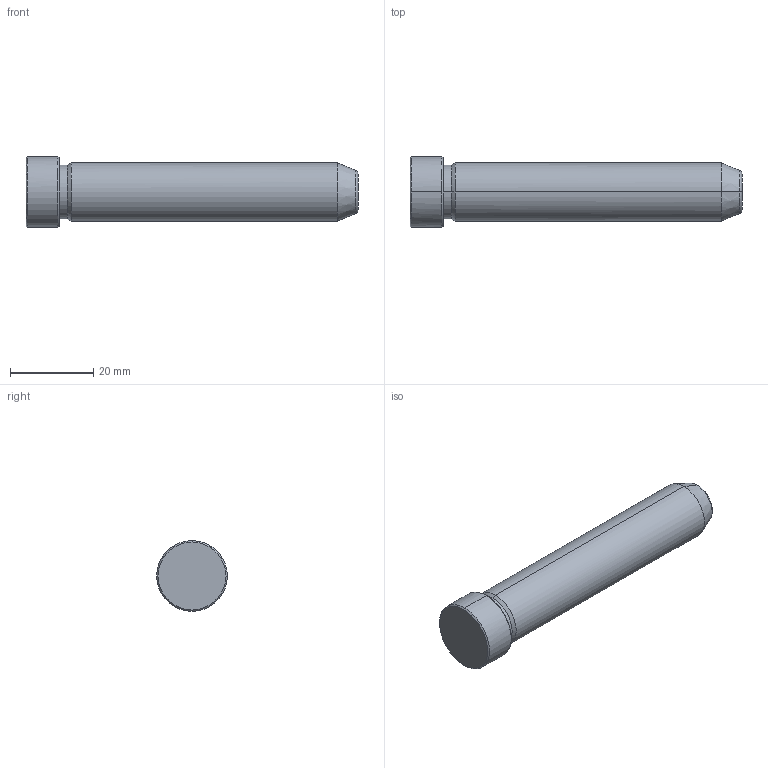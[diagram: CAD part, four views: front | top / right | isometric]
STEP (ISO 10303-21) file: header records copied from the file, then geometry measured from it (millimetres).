
FILE_DESCRIPTION(('CATIA V5 STEP Exchange'),'2;1');
FILE_NAME('C:\Users\Utente\Desktop\IO LAVORO\3D X SITO CF\X SITO\PLASTICA\549\549-14X80.stp','2021-12-11T09:27:36+00:00',('none'),('none'),'CATIA Version 5 Release 20 GA (IN-10)','CATIA V5 STEP AP203','none');
FILE_SCHEMA(('CONFIG_CONTROL_DESIGN'));
Length unit declared in the file: millimetre
Products named in the file (1): 549-14X80
Bounding box: 80 x 17 x 17 mm (x, y, z)
Volume: 12639.7 mm3; surface area: 3949.9 mm2
Topology: 1 solids, 1 shells, 19 faces, 56 edges, 40 vertices
Faces by surface type: cone 8, cylinder 6, plane 3, torus 2
Entity records: 736 total; most frequent: CARTESIAN_POINT 192, ORIENTED_EDGE 112, DIRECTION 86, EDGE_CURVE 56, AXIS2_PLACEMENT_3D 54, VERTEX_POINT 40, CIRCLE 34, EDGE_LOOP 20
